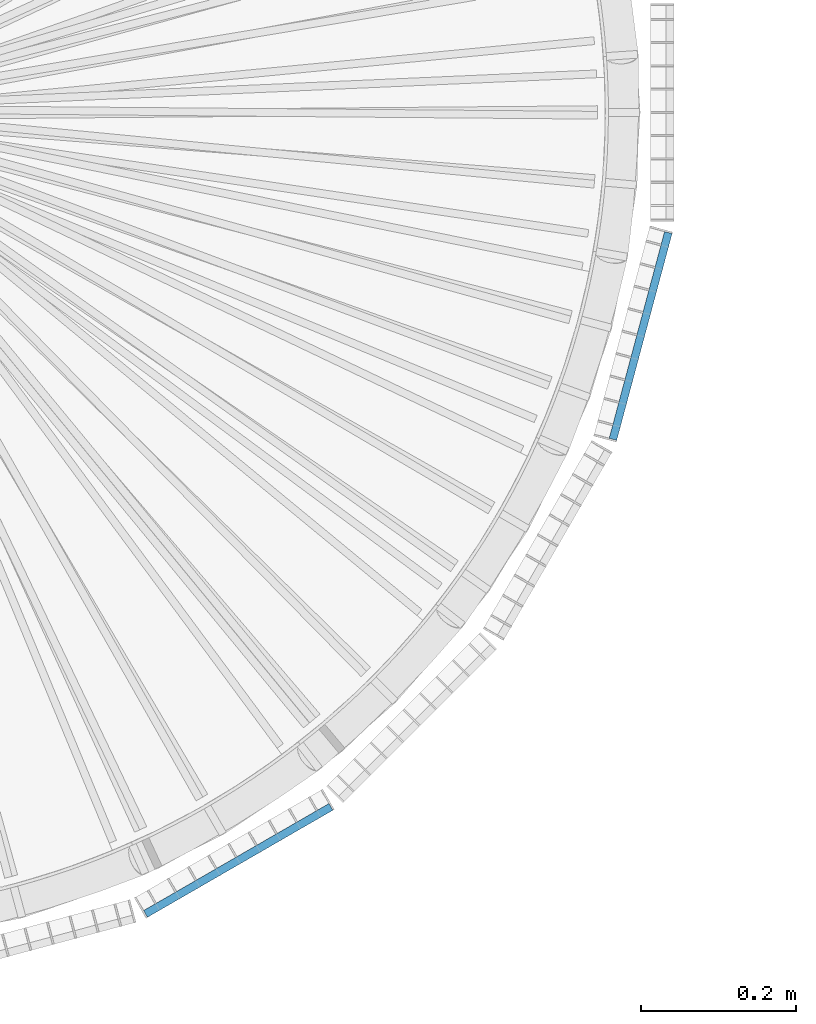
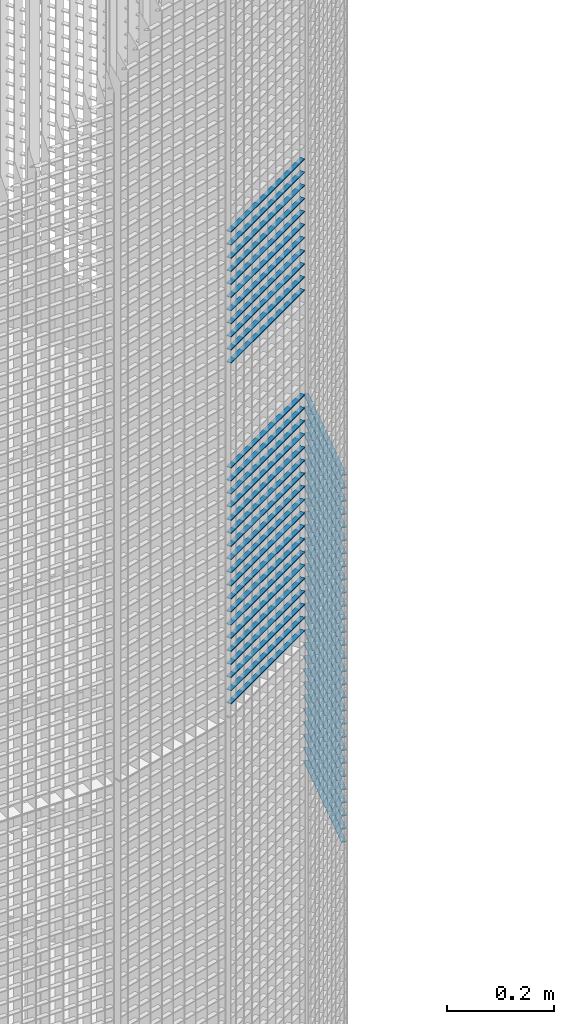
# One storey, part 263 of 1183: 59 beams, 2 elements without a shape of their own.
"""IFC2X3 building model written with IfcOpenShell, lengths in millimetres."""

from ifc_helpers import new_model, si_unit, frame, origin_with_axes, origin_2d_with_axis, place, context, subcontext, project, spatial, rectangle, extrude, material, type_object, element, aggregate, save


model = new_model("IFC2X3")

# Units and contexts
model_context = context("Model", 3, precision=1e-05, world=origin_with_axes())
body_context = subcontext(model_context, "Body", "Model", "MODEL_VIEW")
ifc_project = project(units=[si_unit("LENGTHUNIT", "METRE", prefix="MILLI"), si_unit("AREAUNIT", "SQUARE_METRE"), si_unit("VOLUMEUNIT", "CUBIC_METRE"), si_unit("MASSUNIT", "GRAM", prefix="KILO"), si_unit("TIMEUNIT", "SECOND"), si_unit("PLANEANGLEUNIT", "RADIAN"), si_unit("SOLIDANGLEUNIT", "STERADIAN"), si_unit("THERMODYNAMICTEMPERATUREUNIT", "DEGREE_CELSIUS"), si_unit("LUMINOUSINTENSITYUNIT", "LUMEN")], contexts=[model_context])

# Site, building, storey
site_placement = place(None, origin_with_axes())
site = spatial("IfcSite", under=ifc_project, at=site_placement, Name="Undefined", CompositionType="ELEMENT")
building_placement = place(site_placement, origin_with_axes())
building = spatial("IfcBuilding", under=site, at=building_placement, Name="Undefined", CompositionType="ELEMENT")
storey_placement = place(building_placement, origin_with_axes())
storey = spatial("IfcBuildingStorey", under=building, at=storey_placement, Name="Undefined", CompositionType="ELEMENT", Elevation=0.0)

# Assembly, beams
assembly_1_placement = place(storey_placement, origin_with_axes())
assembly_1 = element("IfcElementAssembly", 1, at=assembly_1_placement, inside=storey, Name="BORDURE", AssemblyPlace="NOTDEFINED", PredefinedType="NOTDEFINED")
ifc_material = material(Name="STEEL/S235JR")
beam_type = type_object("IfcBeamType", Name="PL2*10", PredefinedType="NOTDEFINED")
beam_1_placement = place(assembly_1_placement, frame((437.231955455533, -1033.29996828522, 3810.0), z_axis=(0.499999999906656, -0.866025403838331, 0.0), x_axis=(0.866025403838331, 0.499999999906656, 0.0)))
beam_1 = element("IfcBeam", 2, at=beam_1_placement, type_object=beam_type, material=ifc_material, Name="ENTRETOISE", context=body_context, shape_type="SweptSolid", body=[
    extrude(rectangle(XDim=2.0, YDim=10.0, at=origin_2d_with_axis()), frame((275.999999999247, 9.09494701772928e-13, 1.53210777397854e-14), z_axis=(-1.0, 0.0, 0.0), x_axis=(0.0, -1.0, 0.0)), (0.0, 0.0, 1.0), 276.0),
])
beam_2_placement = place(assembly_1_placement, frame((437.231955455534, -1033.29996828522, 3570.0), z_axis=(0.499999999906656, -0.866025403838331, 0.0), x_axis=(0.866025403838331, 0.499999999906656, 0.0)))
beam_2 = element("IfcBeam", 3, at=beam_2_placement, type_object=beam_type, material=ifc_material, Name="ENTRETOISE", context=body_context, shape_type="SweptSolid", body=[
    extrude(rectangle(XDim=2.0, YDim=10.0, at=origin_2d_with_axis()), frame((275.999999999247, 9.09494701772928e-13, 1.53210777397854e-14), z_axis=(-1.0, 0.0, 0.0), x_axis=(0.0, -1.0, 0.0)), (0.0, 0.0, 1.0), 276.0),
])
beam_3_placement = place(assembly_1_placement, frame((437.231955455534, -1033.29996828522, 3540.0), z_axis=(0.499999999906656, -0.866025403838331, 0.0), x_axis=(0.866025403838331, 0.499999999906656, 0.0)))
beam_3 = element("IfcBeam", 4, at=beam_3_placement, type_object=beam_type, material=ifc_material, Name="ENTRETOISE", context=body_context, shape_type="SweptSolid", body=[
    extrude(rectangle(XDim=2.0, YDim=10.0, at=origin_2d_with_axis()), frame((275.999999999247, 9.09494701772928e-13, 1.53210777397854e-14), z_axis=(-1.0, 0.0, 0.0), x_axis=(0.0, -1.0, 0.0)), (0.0, 0.0, 1.0), 276.0),
])
beam_4_placement = place(assembly_1_placement, frame((437.231955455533, -1033.29996828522, 3840.0), z_axis=(0.499999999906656, -0.866025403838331, 0.0), x_axis=(0.866025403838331, 0.499999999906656, 0.0)))
beam_4 = element("IfcBeam", 5, at=beam_4_placement, type_object=beam_type, material=ifc_material, Name="ENTRETOISE", context=body_context, shape_type="SweptSolid", body=[
    extrude(rectangle(XDim=2.0, YDim=10.0, at=origin_2d_with_axis()), frame((275.999999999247, 9.09494701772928e-13, 1.53210777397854e-14), z_axis=(-1.0, 0.0, 0.0), x_axis=(0.0, -1.0, 0.0)), (0.0, 0.0, 1.0), 276.0),
])
beam_5_placement = place(assembly_1_placement, frame((437.231955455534, -1033.29996828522, 3510.0), z_axis=(0.499999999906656, -0.866025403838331, 0.0), x_axis=(0.866025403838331, 0.499999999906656, 0.0)))
beam_5 = element("IfcBeam", 6, at=beam_5_placement, type_object=beam_type, material=ifc_material, Name="ENTRETOISE", context=body_context, shape_type="SweptSolid", body=[
    extrude(rectangle(XDim=2.0, YDim=10.0, at=origin_2d_with_axis()), frame((275.999999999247, 9.09494701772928e-13, 1.53210777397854e-14), z_axis=(-1.0, 0.0, 0.0), x_axis=(0.0, -1.0, 0.0)), (0.0, 0.0, 1.0), 276.0),
])
beam_6_placement = place(assembly_1_placement, frame((437.231955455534, -1033.29996828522, 3480.0), z_axis=(0.499999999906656, -0.866025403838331, 0.0), x_axis=(0.866025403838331, 0.499999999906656, 0.0)))
beam_6 = element("IfcBeam", 7, at=beam_6_placement, type_object=beam_type, material=ifc_material, Name="ENTRETOISE", context=body_context, shape_type="SweptSolid", body=[
    extrude(rectangle(XDim=2.0, YDim=10.0, at=origin_2d_with_axis()), frame((275.999999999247, 9.09494701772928e-13, 1.53210777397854e-14), z_axis=(-1.0, 0.0, 0.0), x_axis=(0.0, -1.0, 0.0)), (0.0, 0.0, 1.0), 276.0),
])
beam_7_placement = place(assembly_1_placement, frame((437.231955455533, -1033.29996828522, 3870.0), z_axis=(0.499999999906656, -0.866025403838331, 0.0), x_axis=(0.866025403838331, 0.499999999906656, 0.0)))
beam_7 = element("IfcBeam", 8, at=beam_7_placement, type_object=beam_type, material=ifc_material, Name="ENTRETOISE", context=body_context, shape_type="SweptSolid", body=[
    extrude(rectangle(XDim=2.0, YDim=10.0, at=origin_2d_with_axis()), frame((275.999999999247, 9.09494701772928e-13, 1.53210777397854e-14), z_axis=(-1.0, 0.0, 0.0), x_axis=(0.0, -1.0, 0.0)), (0.0, 0.0, 1.0), 276.0),
])
beam_8_placement = place(assembly_1_placement, frame((437.231955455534, -1033.29996828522, 3450.0), z_axis=(0.499999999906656, -0.866025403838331, 0.0), x_axis=(0.866025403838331, 0.499999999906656, 0.0)))
beam_8 = element("IfcBeam", 9, at=beam_8_placement, type_object=beam_type, material=ifc_material, Name="ENTRETOISE", context=body_context, shape_type="SweptSolid", body=[
    extrude(rectangle(XDim=2.0, YDim=10.0, at=origin_2d_with_axis()), frame((275.999999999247, 9.09494701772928e-13, 1.53210777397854e-14), z_axis=(-1.0, 0.0, 0.0), x_axis=(0.0, -1.0, 0.0)), (0.0, 0.0, 1.0), 276.0),
])
beam_9_placement = place(assembly_1_placement, frame((437.231955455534, -1033.29996828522, 3420.0), z_axis=(0.499999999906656, -0.866025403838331, 0.0), x_axis=(0.866025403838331, 0.499999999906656, 0.0)))
beam_9 = element("IfcBeam", 10, at=beam_9_placement, type_object=beam_type, material=ifc_material, Name="ENTRETOISE", context=body_context, shape_type="SweptSolid", body=[
    extrude(rectangle(XDim=2.0, YDim=10.0, at=origin_2d_with_axis()), frame((275.999999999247, 9.09494701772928e-13, 1.53210777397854e-14), z_axis=(-1.0, 0.0, 0.0), x_axis=(0.0, -1.0, 0.0)), (0.0, 0.0, 1.0), 276.0),
])
beam_10_placement = place(assembly_1_placement, frame((437.231955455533, -1033.29996828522, 3900.0), z_axis=(0.499999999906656, -0.866025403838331, 0.0), x_axis=(0.866025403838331, 0.499999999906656, 0.0)))
beam_10 = element("IfcBeam", 11, at=beam_10_placement, type_object=beam_type, material=ifc_material, Name="ENTRETOISE", context=body_context, shape_type="SweptSolid", body=[
    extrude(rectangle(XDim=2.0, YDim=10.0, at=origin_2d_with_axis()), frame((275.999999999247, 9.09494701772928e-13, 1.53210777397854e-14), z_axis=(-1.0, 0.0, 0.0), x_axis=(0.0, -1.0, 0.0)), (0.0, 0.0, 1.0), 276.0),
])
beam_11_placement = place(assembly_1_placement, frame((437.231955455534, -1033.29996828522, 3390.0), z_axis=(0.499999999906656, -0.866025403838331, 0.0), x_axis=(0.866025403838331, 0.499999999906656, 0.0)))
beam_11 = element("IfcBeam", 12, at=beam_11_placement, type_object=beam_type, material=ifc_material, Name="ENTRETOISE", context=body_context, shape_type="SweptSolid", body=[
    extrude(rectangle(XDim=2.0, YDim=10.0, at=origin_2d_with_axis()), frame((275.999999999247, 9.09494701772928e-13, 1.53210777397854e-14), z_axis=(-1.0, 0.0, 0.0), x_axis=(0.0, -1.0, 0.0)), (0.0, 0.0, 1.0), 276.0),
])
beam_12_placement = place(assembly_1_placement, frame((437.231955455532, -1033.29996828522, 3930.0), z_axis=(0.499999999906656, -0.866025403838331, 0.0), x_axis=(0.866025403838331, 0.499999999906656, 0.0)))
beam_12 = element("IfcBeam", 13, at=beam_12_placement, type_object=beam_type, material=ifc_material, Name="ENTRETOISE", context=body_context, shape_type="SweptSolid", body=[
    extrude(rectangle(XDim=2.0, YDim=10.0, at=origin_2d_with_axis()), frame((275.999999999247, 9.09494701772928e-13, 1.53210777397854e-14), z_axis=(-1.0, 0.0, 0.0), x_axis=(0.0, -1.0, 0.0)), (0.0, 0.0, 1.0), 276.0),
])
beam_13_placement = place(assembly_1_placement, frame((437.231955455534, -1033.29996828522, 3360.0), z_axis=(0.499999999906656, -0.866025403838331, 0.0), x_axis=(0.866025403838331, 0.499999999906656, 0.0)))
beam_13 = element("IfcBeam", 14, at=beam_13_placement, type_object=beam_type, material=ifc_material, Name="ENTRETOISE", context=body_context, shape_type="SweptSolid", body=[
    extrude(rectangle(XDim=2.0, YDim=10.0, at=origin_2d_with_axis()), frame((275.999999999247, 9.09494701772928e-13, 1.53210777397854e-14), z_axis=(-1.0, 0.0, 0.0), x_axis=(0.0, -1.0, 0.0)), (0.0, 0.0, 1.0), 276.0),
])
beam_14_placement = place(assembly_1_placement, frame((437.231955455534, -1033.29996828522, 3330.0), z_axis=(0.499999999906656, -0.866025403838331, 0.0), x_axis=(0.866025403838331, 0.499999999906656, 0.0)))
beam_14 = element("IfcBeam", 15, at=beam_14_placement, type_object=beam_type, material=ifc_material, Name="ENTRETOISE", context=body_context, shape_type="SweptSolid", body=[
    extrude(rectangle(XDim=2.0, YDim=10.0, at=origin_2d_with_axis()), frame((275.999999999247, 9.09494701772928e-13, 1.53210777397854e-14), z_axis=(-1.0, 0.0, 0.0), x_axis=(0.0, -1.0, 0.0)), (0.0, 0.0, 1.0), 276.0),
])
beam_15_placement = place(assembly_1_placement, frame((437.231955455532, -1033.29996828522, 3960.0), z_axis=(0.499999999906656, -0.866025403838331, 0.0), x_axis=(0.866025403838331, 0.499999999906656, 0.0)))
beam_15 = element("IfcBeam", 16, at=beam_15_placement, type_object=beam_type, material=ifc_material, Name="ENTRETOISE", context=body_context, shape_type="SweptSolid", body=[
    extrude(rectangle(XDim=2.0, YDim=10.0, at=origin_2d_with_axis()), frame((275.999999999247, 9.09494701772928e-13, 1.53210777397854e-14), z_axis=(-1.0, 0.0, 0.0), x_axis=(0.0, -1.0, 0.0)), (0.0, 0.0, 1.0), 276.0),
])
beam_16_placement = place(assembly_1_placement, frame((437.231955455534, -1033.29996828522, 3300.0), z_axis=(0.499999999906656, -0.866025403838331, 0.0), x_axis=(0.866025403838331, 0.499999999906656, 0.0)))
beam_16 = element("IfcBeam", 17, at=beam_16_placement, type_object=beam_type, material=ifc_material, Name="ENTRETOISE", context=body_context, shape_type="SweptSolid", body=[
    extrude(rectangle(XDim=2.0, YDim=10.0, at=origin_2d_with_axis()), frame((275.999999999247, 9.09494701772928e-13, 1.53210777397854e-14), z_axis=(-1.0, 0.0, 0.0), x_axis=(0.0, -1.0, 0.0)), (0.0, 0.0, 1.0), 276.0),
])
beam_17_placement = place(assembly_1_placement, frame((437.231955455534, -1033.29996828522, 3270.0), z_axis=(0.499999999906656, -0.866025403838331, 0.0), x_axis=(0.866025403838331, 0.499999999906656, 0.0)))
beam_17 = element("IfcBeam", 18, at=beam_17_placement, type_object=beam_type, material=ifc_material, Name="ENTRETOISE", context=body_context, shape_type="SweptSolid", body=[
    extrude(rectangle(XDim=2.0, YDim=10.0, at=origin_2d_with_axis()), frame((275.999999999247, 9.09494701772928e-13, 1.53210777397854e-14), z_axis=(-1.0, 0.0, 0.0), x_axis=(0.0, -1.0, 0.0)), (0.0, 0.0, 1.0), 276.0),
])
beam_18_placement = place(assembly_1_placement, frame((437.231955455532, -1033.29996828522, 3990.0), z_axis=(0.499999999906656, -0.866025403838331, 0.0), x_axis=(0.866025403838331, 0.499999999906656, 0.0)))
beam_18 = element("IfcBeam", 19, at=beam_18_placement, type_object=beam_type, material=ifc_material, Name="ENTRETOISE", context=body_context, shape_type="SweptSolid", body=[
    extrude(rectangle(XDim=2.0, YDim=10.0, at=origin_2d_with_axis()), frame((275.999999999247, 9.09494701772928e-13, 1.53210777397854e-14), z_axis=(-1.0, 0.0, 0.0), x_axis=(0.0, -1.0, 0.0)), (0.0, 0.0, 1.0), 276.0),
])
beam_19_placement = place(assembly_1_placement, frame((437.231955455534, -1033.29996828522, 3240.0), z_axis=(0.499999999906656, -0.866025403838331, 0.0), x_axis=(0.866025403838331, 0.499999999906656, 0.0)))
beam_19 = element("IfcBeam", 20, at=beam_19_placement, type_object=beam_type, material=ifc_material, Name="ENTRETOISE", context=body_context, shape_type="SweptSolid", body=[
    extrude(rectangle(XDim=2.0, YDim=10.0, at=origin_2d_with_axis()), frame((275.999999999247, 9.09494701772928e-13, 1.53210777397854e-14), z_axis=(-1.0, 0.0, 0.0), x_axis=(0.0, -1.0, 0.0)), (0.0, 0.0, 1.0), 276.0),
])
beam_20_placement = place(assembly_1_placement, frame((437.231955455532, -1033.29996828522, 4020.0), z_axis=(0.499999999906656, -0.866025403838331, 0.0), x_axis=(0.866025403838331, 0.499999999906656, 0.0)))
beam_20 = element("IfcBeam", 21, at=beam_20_placement, type_object=beam_type, material=ifc_material, Name="ENTRETOISE", context=body_context, shape_type="SweptSolid", body=[
    extrude(rectangle(XDim=2.0, YDim=10.0, at=origin_2d_with_axis()), frame((275.999999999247, 9.09494701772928e-13, 1.53210777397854e-14), z_axis=(-1.0, 0.0, 0.0), x_axis=(0.0, -1.0, 0.0)), (0.0, 0.0, 1.0), 276.0),
])
beam_21_placement = place(assembly_1_placement, frame((437.231955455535, -1033.29996828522, 3210.0), z_axis=(0.499999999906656, -0.866025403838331, 0.0), x_axis=(0.866025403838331, 0.499999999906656, 0.0)))
beam_21 = element("IfcBeam", 22, at=beam_21_placement, type_object=beam_type, material=ifc_material, Name="ENTRETOISE", context=body_context, shape_type="SweptSolid", body=[
    extrude(rectangle(XDim=2.0, YDim=10.0, at=origin_2d_with_axis()), frame((275.999999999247, 9.09494701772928e-13, 1.53210777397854e-14), z_axis=(-1.0, 0.0, 0.0), x_axis=(0.0, -1.0, 0.0)), (0.0, 0.0, 1.0), 276.0),
])
beam_22_placement = place(assembly_1_placement, frame((437.231955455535, -1033.29996828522, 3180.0), z_axis=(0.499999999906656, -0.866025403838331, 0.0), x_axis=(0.866025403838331, 0.499999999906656, 0.0)))
beam_22 = element("IfcBeam", 23, at=beam_22_placement, type_object=beam_type, material=ifc_material, Name="ENTRETOISE", context=body_context, shape_type="SweptSolid", body=[
    extrude(rectangle(XDim=2.0, YDim=10.0, at=origin_2d_with_axis()), frame((275.999999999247, 9.09494701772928e-13, 1.53210777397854e-14), z_axis=(-1.0, 0.0, 0.0), x_axis=(0.0, -1.0, 0.0)), (0.0, 0.0, 1.0), 276.0),
])
beam_23_placement = place(assembly_1_placement, frame((437.231955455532, -1033.29996828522, 4050.0), z_axis=(0.499999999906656, -0.866025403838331, 0.0), x_axis=(0.866025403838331, 0.499999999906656, 0.0)))
beam_23 = element("IfcBeam", 24, at=beam_23_placement, type_object=beam_type, material=ifc_material, Name="ENTRETOISE", context=body_context, shape_type="SweptSolid", body=[
    extrude(rectangle(XDim=2.0, YDim=10.0, at=origin_2d_with_axis()), frame((275.999999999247, 9.09494701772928e-13, 1.53210777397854e-14), z_axis=(-1.0, 0.0, 0.0), x_axis=(0.0, -1.0, 0.0)), (0.0, 0.0, 1.0), 276.0),
])
beam_24_placement = place(assembly_1_placement, frame((437.231955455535, -1033.29996828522, 3150.0), z_axis=(0.499999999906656, -0.866025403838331, 0.0), x_axis=(0.866025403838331, 0.499999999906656, 0.0)))
beam_24 = element("IfcBeam", 25, at=beam_24_placement, type_object=beam_type, material=ifc_material, Name="ENTRETOISE", context=body_context, shape_type="SweptSolid", body=[
    extrude(rectangle(XDim=2.0, YDim=10.0, at=origin_2d_with_axis()), frame((275.999999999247, 9.09494701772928e-13, 1.53210777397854e-14), z_axis=(-1.0, 0.0, 0.0), x_axis=(0.0, -1.0, 0.0)), (0.0, 0.0, 1.0), 276.0),
])
beam_25_placement = place(assembly_1_placement, frame((437.231955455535, -1033.29996828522, 3120.0), z_axis=(0.499999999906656, -0.866025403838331, 0.0), x_axis=(0.866025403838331, 0.499999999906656, 0.0)))
beam_25 = element("IfcBeam", 26, at=beam_25_placement, type_object=beam_type, material=ifc_material, Name="ENTRETOISE", context=body_context, shape_type="SweptSolid", body=[
    extrude(rectangle(XDim=2.0, YDim=10.0, at=origin_2d_with_axis()), frame((275.999999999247, 9.09494701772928e-13, 1.53210777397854e-14), z_axis=(-1.0, 0.0, 0.0), x_axis=(0.0, -1.0, 0.0)), (0.0, 0.0, 1.0), 276.0),
])
beam_26_placement = place(assembly_1_placement, frame((437.231955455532, -1033.29996828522, 4080.0), z_axis=(0.499999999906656, -0.866025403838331, 0.0), x_axis=(0.866025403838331, 0.499999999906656, 0.0)))
beam_26 = element("IfcBeam", 27, at=beam_26_placement, type_object=beam_type, material=ifc_material, Name="ENTRETOISE", context=body_context, shape_type="SweptSolid", body=[
    extrude(rectangle(XDim=2.0, YDim=10.0, at=origin_2d_with_axis()), frame((275.999999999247, 9.09494701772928e-13, 1.53210777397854e-14), z_axis=(-1.0, 0.0, 0.0), x_axis=(0.0, -1.0, 0.0)), (0.0, 0.0, 1.0), 276.0),
])
beam_27_placement = place(assembly_1_placement, frame((437.231955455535, -1033.29996828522, 3090.0), z_axis=(0.499999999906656, -0.866025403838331, 0.0), x_axis=(0.866025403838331, 0.499999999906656, 0.0)))
beam_27 = element("IfcBeam", 28, at=beam_27_placement, type_object=beam_type, material=ifc_material, Name="ENTRETOISE", context=body_context, shape_type="SweptSolid", body=[
    extrude(rectangle(XDim=2.0, YDim=10.0, at=origin_2d_with_axis()), frame((275.999999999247, 9.09494701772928e-13, 1.53210777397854e-14), z_axis=(-1.0, 0.0, 0.0), x_axis=(0.0, -1.0, 0.0)), (0.0, 0.0, 1.0), 276.0),
])
beam_28_placement = place(assembly_1_placement, frame((437.231955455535, -1033.29996828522, 3060.0), z_axis=(0.499999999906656, -0.866025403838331, 0.0), x_axis=(0.866025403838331, 0.499999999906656, 0.0)))
beam_28 = element("IfcBeam", 29, at=beam_28_placement, type_object=beam_type, material=ifc_material, Name="ENTRETOISE", context=body_context, shape_type="SweptSolid", body=[
    extrude(rectangle(XDim=2.0, YDim=10.0, at=origin_2d_with_axis()), frame((275.999999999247, 9.09494701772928e-13, 1.53210777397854e-14), z_axis=(-1.0, 0.0, 0.0), x_axis=(0.0, -1.0, 0.0)), (0.0, 0.0, 1.0), 276.0),
])
beam_29_placement = place(assembly_1_placement, frame((437.231955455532, -1033.29996828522, 4110.0), z_axis=(0.499999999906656, -0.866025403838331, 0.0), x_axis=(0.866025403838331, 0.499999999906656, 0.0)))
beam_29 = element("IfcBeam", 30, at=beam_29_placement, type_object=beam_type, material=ifc_material, Name="ENTRETOISE", context=body_context, shape_type="SweptSolid", body=[
    extrude(rectangle(XDim=2.0, YDim=10.0, at=origin_2d_with_axis()), frame((275.999999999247, 9.09494701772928e-13, 1.53210777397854e-14), z_axis=(-1.0, 0.0, 0.0), x_axis=(0.0, -1.0, 0.0)), (0.0, 0.0, 1.0), 276.0),
])
beam_30_placement = place(assembly_1_placement, frame((437.231955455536, -1033.29996828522, 3030.0), z_axis=(0.499999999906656, -0.866025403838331, 0.0), x_axis=(0.866025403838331, 0.499999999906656, 0.0)))
beam_30 = element("IfcBeam", 31, at=beam_30_placement, type_object=beam_type, material=ifc_material, Name="ENTRETOISE", context=body_context, shape_type="SweptSolid", body=[
    extrude(rectangle(XDim=2.0, YDim=10.0, at=origin_2d_with_axis()), frame((275.999999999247, 9.09494701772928e-13, 1.53210777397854e-14), z_axis=(-1.0, 0.0, 0.0), x_axis=(0.0, -1.0, 0.0)), (0.0, 0.0, 1.0), 276.0),
])
aggregate(assembly_1, [beam_1, beam_2, beam_3, beam_4, beam_5, beam_6, beam_7, beam_8, beam_9, beam_10, beam_11, beam_12, beam_13, beam_14, beam_15, beam_16, beam_17, beam_18, beam_19, beam_20, beam_21, beam_22, beam_23, beam_24, beam_25, beam_26, beam_27, beam_28, beam_29, beam_30])

assembly_2_placement = place(storey_placement, origin_with_axes())
assembly_2 = element("IfcElementAssembly", 32, at=assembly_2_placement, inside=storey, Name="BORDURE", AssemblyPlace="NOTDEFINED", PredefinedType="NOTDEFINED")
beam_31_placement = place(assembly_2_placement, frame((1039.82309522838, -421.483733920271, 2970.0), z_axis=(0.965925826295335, -0.258819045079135, 0.0), x_axis=(0.258819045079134, 0.965925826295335, 0.0)))
beam_31 = element("IfcBeam", 33, at=beam_31_placement, type_object=beam_type, material=ifc_material, Name="ENTRETOISE", context=body_context, shape_type="SweptSolid", body=[
    extrude(rectangle(XDim=2.0, YDim=10.0, at=origin_2d_with_axis()), frame((275.999999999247, 9.09494701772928e-13, 1.53210777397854e-14), z_axis=(-1.0, 0.0, 0.0), x_axis=(0.0, -1.0, 0.0)), (0.0, 0.0, 1.0), 276.0),
])
beam_32_placement = place(assembly_2_placement, frame((1039.82309522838, -421.483733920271, 2940.0), z_axis=(0.965925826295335, -0.258819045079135, 0.0), x_axis=(0.258819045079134, 0.965925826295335, 0.0)))
beam_32 = element("IfcBeam", 34, at=beam_32_placement, type_object=beam_type, material=ifc_material, Name="ENTRETOISE", context=body_context, shape_type="SweptSolid", body=[
    extrude(rectangle(XDim=2.0, YDim=10.0, at=origin_2d_with_axis()), frame((275.999999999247, 9.09494701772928e-13, 1.53210777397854e-14), z_axis=(-1.0, 0.0, 0.0), x_axis=(0.0, -1.0, 0.0)), (0.0, 0.0, 1.0), 276.0),
])
beam_33_placement = place(assembly_2_placement, frame((1039.82309522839, -421.483733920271, 2910.0), z_axis=(0.965925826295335, -0.258819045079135, 0.0), x_axis=(0.258819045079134, 0.965925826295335, 0.0)))
beam_33 = element("IfcBeam", 35, at=beam_33_placement, type_object=beam_type, material=ifc_material, Name="ENTRETOISE", context=body_context, shape_type="SweptSolid", body=[
    extrude(rectangle(XDim=2.0, YDim=10.0, at=origin_2d_with_axis()), frame((275.999999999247, 9.09494701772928e-13, 1.53210777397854e-14), z_axis=(-1.0, 0.0, 0.0), x_axis=(0.0, -1.0, 0.0)), (0.0, 0.0, 1.0), 276.0),
])
beam_34_placement = place(assembly_2_placement, frame((1039.82309522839, -421.483733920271, 2880.0), z_axis=(0.965925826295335, -0.258819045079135, 0.0), x_axis=(0.258819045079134, 0.965925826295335, 0.0)))
beam_34 = element("IfcBeam", 36, at=beam_34_placement, type_object=beam_type, material=ifc_material, Name="ENTRETOISE", context=body_context, shape_type="SweptSolid", body=[
    extrude(rectangle(XDim=2.0, YDim=10.0, at=origin_2d_with_axis()), frame((275.999999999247, 9.09494701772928e-13, 1.53210777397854e-14), z_axis=(-1.0, 0.0, 0.0), x_axis=(0.0, -1.0, 0.0)), (0.0, 0.0, 1.0), 276.0),
])
beam_35_placement = place(assembly_2_placement, frame((1039.82309522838, -421.483733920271, 2850.0), z_axis=(0.965925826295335, -0.258819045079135, 0.0), x_axis=(0.258819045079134, 0.965925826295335, 0.0)))
beam_35 = element("IfcBeam", 37, at=beam_35_placement, type_object=beam_type, material=ifc_material, Name="ENTRETOISE", context=body_context, shape_type="SweptSolid", body=[
    extrude(rectangle(XDim=2.0, YDim=10.0, at=origin_2d_with_axis()), frame((275.999999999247, 9.09494701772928e-13, 1.53210777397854e-14), z_axis=(-1.0, 0.0, 0.0), x_axis=(0.0, -1.0, 0.0)), (0.0, 0.0, 1.0), 276.0),
])
beam_36_placement = place(assembly_2_placement, frame((1039.82309522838, -421.483733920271, 2820.0), z_axis=(0.965925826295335, -0.258819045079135, 0.0), x_axis=(0.258819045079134, 0.965925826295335, 0.0)))
beam_36 = element("IfcBeam", 38, at=beam_36_placement, type_object=beam_type, material=ifc_material, Name="ENTRETOISE", context=body_context, shape_type="SweptSolid", body=[
    extrude(rectangle(XDim=2.0, YDim=10.0, at=origin_2d_with_axis()), frame((275.999999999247, 9.09494701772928e-13, 1.53210777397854e-14), z_axis=(-1.0, 0.0, 0.0), x_axis=(0.0, -1.0, 0.0)), (0.0, 0.0, 1.0), 276.0),
])
beam_37_placement = place(assembly_2_placement, frame((1039.82309522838, -421.483733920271, 2790.0), z_axis=(0.965925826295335, -0.258819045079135, 0.0), x_axis=(0.258819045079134, 0.965925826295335, 0.0)))
beam_37 = element("IfcBeam", 39, at=beam_37_placement, type_object=beam_type, material=ifc_material, Name="ENTRETOISE", context=body_context, shape_type="SweptSolid", body=[
    extrude(rectangle(XDim=2.0, YDim=10.0, at=origin_2d_with_axis()), frame((275.999999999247, 9.09494701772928e-13, 1.53210777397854e-14), z_axis=(-1.0, 0.0, 0.0), x_axis=(0.0, -1.0, 0.0)), (0.0, 0.0, 1.0), 276.0),
])
beam_38_placement = place(assembly_2_placement, frame((1039.82309522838, -421.483733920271, 2760.0), z_axis=(0.965925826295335, -0.258819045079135, 0.0), x_axis=(0.258819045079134, 0.965925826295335, 0.0)))
beam_38 = element("IfcBeam", 40, at=beam_38_placement, type_object=beam_type, material=ifc_material, Name="ENTRETOISE", context=body_context, shape_type="SweptSolid", body=[
    extrude(rectangle(XDim=2.0, YDim=10.0, at=origin_2d_with_axis()), frame((275.999999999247, 9.09494701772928e-13, 1.53210777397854e-14), z_axis=(-1.0, 0.0, 0.0), x_axis=(0.0, -1.0, 0.0)), (0.0, 0.0, 1.0), 276.0),
])
beam_39_placement = place(assembly_2_placement, frame((1039.82309522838, -421.48373392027, 2730.0), z_axis=(0.965925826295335, -0.258819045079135, 0.0), x_axis=(0.258819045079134, 0.965925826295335, 0.0)))
beam_39 = element("IfcBeam", 41, at=beam_39_placement, type_object=beam_type, material=ifc_material, Name="ENTRETOISE", context=body_context, shape_type="SweptSolid", body=[
    extrude(rectangle(XDim=2.0, YDim=10.0, at=origin_2d_with_axis()), frame((275.999999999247, 9.09494701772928e-13, 1.53210777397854e-14), z_axis=(-1.0, 0.0, 0.0), x_axis=(0.0, -1.0, 0.0)), (0.0, 0.0, 1.0), 276.0),
])
beam_40_placement = place(assembly_2_placement, frame((1039.82309522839, -421.48373392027, 2700.0), z_axis=(0.965925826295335, -0.258819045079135, 0.0), x_axis=(0.258819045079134, 0.965925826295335, 0.0)))
beam_40 = element("IfcBeam", 42, at=beam_40_placement, type_object=beam_type, material=ifc_material, Name="ENTRETOISE", context=body_context, shape_type="SweptSolid", body=[
    extrude(rectangle(XDim=2.0, YDim=10.0, at=origin_2d_with_axis()), frame((275.999999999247, 9.09494701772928e-13, 1.53210777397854e-14), z_axis=(-1.0, 0.0, 0.0), x_axis=(0.0, -1.0, 0.0)), (0.0, 0.0, 1.0), 276.0),
])
beam_41_placement = place(assembly_2_placement, frame((1039.82309522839, -421.48373392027, 2670.0), z_axis=(0.965925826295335, -0.258819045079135, 0.0), x_axis=(0.258819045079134, 0.965925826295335, 0.0)))
beam_41 = element("IfcBeam", 43, at=beam_41_placement, type_object=beam_type, material=ifc_material, Name="ENTRETOISE", context=body_context, shape_type="SweptSolid", body=[
    extrude(rectangle(XDim=2.0, YDim=10.0, at=origin_2d_with_axis()), frame((275.999999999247, 9.09494701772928e-13, 1.53210777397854e-14), z_axis=(-1.0, 0.0, 0.0), x_axis=(0.0, -1.0, 0.0)), (0.0, 0.0, 1.0), 276.0),
])
beam_42_placement = place(assembly_2_placement, frame((1039.82309522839, -421.48373392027, 2640.0), z_axis=(0.965925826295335, -0.258819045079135, 0.0), x_axis=(0.258819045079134, 0.965925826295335, 0.0)))
beam_42 = element("IfcBeam", 44, at=beam_42_placement, type_object=beam_type, material=ifc_material, Name="ENTRETOISE", context=body_context, shape_type="SweptSolid", body=[
    extrude(rectangle(XDim=2.0, YDim=10.0, at=origin_2d_with_axis()), frame((275.999999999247, 9.09494701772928e-13, 1.53210777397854e-14), z_axis=(-1.0, 0.0, 0.0), x_axis=(0.0, -1.0, 0.0)), (0.0, 0.0, 1.0), 276.0),
])
beam_43_placement = place(assembly_2_placement, frame((1039.82309522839, -421.48373392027, 2610.0), z_axis=(0.965925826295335, -0.258819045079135, 0.0), x_axis=(0.258819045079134, 0.965925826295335, 0.0)))
beam_43 = element("IfcBeam", 45, at=beam_43_placement, type_object=beam_type, material=ifc_material, Name="ENTRETOISE", context=body_context, shape_type="SweptSolid", body=[
    extrude(rectangle(XDim=2.0, YDim=10.0, at=origin_2d_with_axis()), frame((275.999999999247, 9.09494701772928e-13, 1.53210777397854e-14), z_axis=(-1.0, 0.0, 0.0), x_axis=(0.0, -1.0, 0.0)), (0.0, 0.0, 1.0), 276.0),
])
beam_44_placement = place(assembly_2_placement, frame((1039.82309522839, -421.48373392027, 2580.0), z_axis=(0.965925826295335, -0.258819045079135, 0.0), x_axis=(0.258819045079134, 0.965925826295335, 0.0)))
beam_44 = element("IfcBeam", 46, at=beam_44_placement, type_object=beam_type, material=ifc_material, Name="ENTRETOISE", context=body_context, shape_type="SweptSolid", body=[
    extrude(rectangle(XDim=2.0, YDim=10.0, at=origin_2d_with_axis()), frame((275.999999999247, 9.09494701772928e-13, 1.53210777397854e-14), z_axis=(-1.0, 0.0, 0.0), x_axis=(0.0, -1.0, 0.0)), (0.0, 0.0, 1.0), 276.0),
])
beam_45_placement = place(assembly_2_placement, frame((1039.82309522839, -421.48373392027, 2550.0), z_axis=(0.965925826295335, -0.258819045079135, 0.0), x_axis=(0.258819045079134, 0.965925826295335, 0.0)))
beam_45 = element("IfcBeam", 47, at=beam_45_placement, type_object=beam_type, material=ifc_material, Name="ENTRETOISE", context=body_context, shape_type="SweptSolid", body=[
    extrude(rectangle(XDim=2.0, YDim=10.0, at=origin_2d_with_axis()), frame((275.999999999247, 9.09494701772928e-13, 1.53210777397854e-14), z_axis=(-1.0, 0.0, 0.0), x_axis=(0.0, -1.0, 0.0)), (0.0, 0.0, 1.0), 276.0),
])
beam_46_placement = place(assembly_2_placement, frame((1039.82309522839, -421.48373392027, 2520.0), z_axis=(0.965925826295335, -0.258819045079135, 0.0), x_axis=(0.258819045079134, 0.965925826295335, 0.0)))
beam_46 = element("IfcBeam", 48, at=beam_46_placement, type_object=beam_type, material=ifc_material, Name="ENTRETOISE", context=body_context, shape_type="SweptSolid", body=[
    extrude(rectangle(XDim=2.0, YDim=10.0, at=origin_2d_with_axis()), frame((275.999999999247, 9.09494701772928e-13, 1.53210777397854e-14), z_axis=(-1.0, 0.0, 0.0), x_axis=(0.0, -1.0, 0.0)), (0.0, 0.0, 1.0), 276.0),
])
beam_47_placement = place(assembly_2_placement, frame((1039.82309522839, -421.48373392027, 2490.0), z_axis=(0.965925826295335, -0.258819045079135, 0.0), x_axis=(0.258819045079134, 0.965925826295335, 0.0)))
beam_47 = element("IfcBeam", 49, at=beam_47_placement, type_object=beam_type, material=ifc_material, Name="ENTRETOISE", context=body_context, shape_type="SweptSolid", body=[
    extrude(rectangle(XDim=2.0, YDim=10.0, at=origin_2d_with_axis()), frame((275.999999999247, 9.09494701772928e-13, 1.53210777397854e-14), z_axis=(-1.0, 0.0, 0.0), x_axis=(0.0, -1.0, 0.0)), (0.0, 0.0, 1.0), 276.0),
])
beam_48_placement = place(assembly_2_placement, frame((1039.82309522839, -421.483733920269, 2460.0), z_axis=(0.965925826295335, -0.258819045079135, 0.0), x_axis=(0.258819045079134, 0.965925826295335, 0.0)))
beam_48 = element("IfcBeam", 50, at=beam_48_placement, type_object=beam_type, material=ifc_material, Name="ENTRETOISE", context=body_context, shape_type="SweptSolid", body=[
    extrude(rectangle(XDim=2.0, YDim=10.0, at=origin_2d_with_axis()), frame((275.999999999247, 9.09494701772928e-13, 1.53210777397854e-14), z_axis=(-1.0, 0.0, 0.0), x_axis=(0.0, -1.0, 0.0)), (0.0, 0.0, 1.0), 276.0),
])
beam_49_placement = place(assembly_2_placement, frame((1039.82309522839, -421.483733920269, 2430.0), z_axis=(0.965925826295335, -0.258819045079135, 0.0), x_axis=(0.258819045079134, 0.965925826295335, 0.0)))
beam_49 = element("IfcBeam", 51, at=beam_49_placement, type_object=beam_type, material=ifc_material, Name="ENTRETOISE", context=body_context, shape_type="SweptSolid", body=[
    extrude(rectangle(XDim=2.0, YDim=10.0, at=origin_2d_with_axis()), frame((275.999999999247, 9.09494701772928e-13, 1.53210777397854e-14), z_axis=(-1.0, 0.0, 0.0), x_axis=(0.0, -1.0, 0.0)), (0.0, 0.0, 1.0), 276.0),
])
beam_50_placement = place(assembly_2_placement, frame((1039.82309522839, -421.483733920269, 2400.0), z_axis=(0.965925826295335, -0.258819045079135, 0.0), x_axis=(0.258819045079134, 0.965925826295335, 0.0)))
beam_50 = element("IfcBeam", 52, at=beam_50_placement, type_object=beam_type, material=ifc_material, Name="ENTRETOISE", context=body_context, shape_type="SweptSolid", body=[
    extrude(rectangle(XDim=2.0, YDim=10.0, at=origin_2d_with_axis()), frame((275.999999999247, 9.09494701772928e-13, 1.53210777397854e-14), z_axis=(-1.0, 0.0, 0.0), x_axis=(0.0, -1.0, 0.0)), (0.0, 0.0, 1.0), 276.0),
])
beam_51_placement = place(assembly_2_placement, frame((1039.82309522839, -421.483733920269, 2370.0), z_axis=(0.965925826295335, -0.258819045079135, 0.0), x_axis=(0.258819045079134, 0.965925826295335, 0.0)))
beam_51 = element("IfcBeam", 53, at=beam_51_placement, type_object=beam_type, material=ifc_material, Name="ENTRETOISE", context=body_context, shape_type="SweptSolid", body=[
    extrude(rectangle(XDim=2.0, YDim=10.0, at=origin_2d_with_axis()), frame((275.999999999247, 9.09494701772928e-13, 1.53210777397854e-14), z_axis=(-1.0, 0.0, 0.0), x_axis=(0.0, -1.0, 0.0)), (0.0, 0.0, 1.0), 276.0),
])
beam_52_placement = place(assembly_2_placement, frame((1039.82309522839, -421.483733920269, 2340.0), z_axis=(0.965925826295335, -0.258819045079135, 0.0), x_axis=(0.258819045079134, 0.965925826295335, 0.0)))
beam_52 = element("IfcBeam", 54, at=beam_52_placement, type_object=beam_type, material=ifc_material, Name="ENTRETOISE", context=body_context, shape_type="SweptSolid", body=[
    extrude(rectangle(XDim=2.0, YDim=10.0, at=origin_2d_with_axis()), frame((275.999999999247, 9.09494701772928e-13, 1.53210777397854e-14), z_axis=(-1.0, 0.0, 0.0), x_axis=(0.0, -1.0, 0.0)), (0.0, 0.0, 1.0), 276.0),
])
beam_53_placement = place(assembly_2_placement, frame((1039.82309522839, -421.483733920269, 2310.0), z_axis=(0.965925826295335, -0.258819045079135, 0.0), x_axis=(0.258819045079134, 0.965925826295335, 0.0)))
beam_53 = element("IfcBeam", 55, at=beam_53_placement, type_object=beam_type, material=ifc_material, Name="ENTRETOISE", context=body_context, shape_type="SweptSolid", body=[
    extrude(rectangle(XDim=2.0, YDim=10.0, at=origin_2d_with_axis()), frame((275.999999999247, 9.09494701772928e-13, 1.53210777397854e-14), z_axis=(-1.0, 0.0, 0.0), x_axis=(0.0, -1.0, 0.0)), (0.0, 0.0, 1.0), 276.0),
])
beam_54_placement = place(assembly_2_placement, frame((1039.82309522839, -421.483733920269, 2280.0), z_axis=(0.965925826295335, -0.258819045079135, 0.0), x_axis=(0.258819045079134, 0.965925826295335, 0.0)))
beam_54 = element("IfcBeam", 56, at=beam_54_placement, type_object=beam_type, material=ifc_material, Name="ENTRETOISE", context=body_context, shape_type="SweptSolid", body=[
    extrude(rectangle(XDim=2.0, YDim=10.0, at=origin_2d_with_axis()), frame((275.999999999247, 9.09494701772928e-13, 1.53210777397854e-14), z_axis=(-1.0, 0.0, 0.0), x_axis=(0.0, -1.0, 0.0)), (0.0, 0.0, 1.0), 276.0),
])
beam_55_placement = place(assembly_2_placement, frame((1039.82309522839, -421.483733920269, 2250.0), z_axis=(0.965925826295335, -0.258819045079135, 0.0), x_axis=(0.258819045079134, 0.965925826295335, 0.0)))
beam_55 = element("IfcBeam", 57, at=beam_55_placement, type_object=beam_type, material=ifc_material, Name="ENTRETOISE", context=body_context, shape_type="SweptSolid", body=[
    extrude(rectangle(XDim=2.0, YDim=10.0, at=origin_2d_with_axis()), frame((275.999999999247, 9.09494701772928e-13, 1.53210777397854e-14), z_axis=(-1.0, 0.0, 0.0), x_axis=(0.0, -1.0, 0.0)), (0.0, 0.0, 1.0), 276.0),
])
beam_56_placement = place(assembly_2_placement, frame((1039.82309522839, -421.483733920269, 2220.0), z_axis=(0.965925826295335, -0.258819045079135, 0.0), x_axis=(0.258819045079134, 0.965925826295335, 0.0)))
beam_56 = element("IfcBeam", 58, at=beam_56_placement, type_object=beam_type, material=ifc_material, Name="ENTRETOISE", context=body_context, shape_type="SweptSolid", body=[
    extrude(rectangle(XDim=2.0, YDim=10.0, at=origin_2d_with_axis()), frame((275.999999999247, 9.09494701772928e-13, 1.53210777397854e-14), z_axis=(-1.0, 0.0, 0.0), x_axis=(0.0, -1.0, 0.0)), (0.0, 0.0, 1.0), 276.0),
])
beam_57_placement = place(assembly_2_placement, frame((1039.82309522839, -421.483733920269, 2190.0), z_axis=(0.965925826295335, -0.258819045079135, 0.0), x_axis=(0.258819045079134, 0.965925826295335, 0.0)))
beam_57 = element("IfcBeam", 59, at=beam_57_placement, type_object=beam_type, material=ifc_material, Name="ENTRETOISE", context=body_context, shape_type="SweptSolid", body=[
    extrude(rectangle(XDim=2.0, YDim=10.0, at=origin_2d_with_axis()), frame((275.999999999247, 9.09494701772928e-13, 1.53210777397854e-14), z_axis=(-1.0, 0.0, 0.0), x_axis=(0.0, -1.0, 0.0)), (0.0, 0.0, 1.0), 276.0),
])
beam_58_placement = place(assembly_2_placement, frame((1039.82309522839, -421.483733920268, 2160.0), z_axis=(0.965925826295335, -0.258819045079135, 0.0), x_axis=(0.258819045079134, 0.965925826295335, 0.0)))
beam_58 = element("IfcBeam", 60, at=beam_58_placement, type_object=beam_type, material=ifc_material, Name="ENTRETOISE", context=body_context, shape_type="SweptSolid", body=[
    extrude(rectangle(XDim=2.0, YDim=10.0, at=origin_2d_with_axis()), frame((275.999999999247, 9.09494701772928e-13, 1.53210777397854e-14), z_axis=(-1.0, 0.0, 0.0), x_axis=(0.0, -1.0, 0.0)), (0.0, 0.0, 1.0), 276.0),
])
beam_59_placement = place(assembly_2_placement, frame((1039.82309522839, -421.483733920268, 2130.0), z_axis=(0.965925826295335, -0.258819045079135, 0.0), x_axis=(0.258819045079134, 0.965925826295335, 0.0)))
beam_59 = element("IfcBeam", 61, at=beam_59_placement, type_object=beam_type, material=ifc_material, Name="ENTRETOISE", context=body_context, shape_type="SweptSolid", body=[
    extrude(rectangle(XDim=2.0, YDim=10.0, at=origin_2d_with_axis()), frame((275.999999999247, 9.09494701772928e-13, 1.53210777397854e-14), z_axis=(-1.0, 0.0, 0.0), x_axis=(0.0, -1.0, 0.0)), (0.0, 0.0, 1.0), 276.0),
])
aggregate(assembly_2, [beam_31, beam_32, beam_33, beam_34, beam_35, beam_36, beam_37, beam_38, beam_39, beam_40, beam_41, beam_42, beam_43, beam_44, beam_45, beam_46, beam_47, beam_48, beam_49, beam_50, beam_51, beam_52, beam_53, beam_54, beam_55, beam_56, beam_57, beam_58, beam_59])

save(model, "model.ifc")
